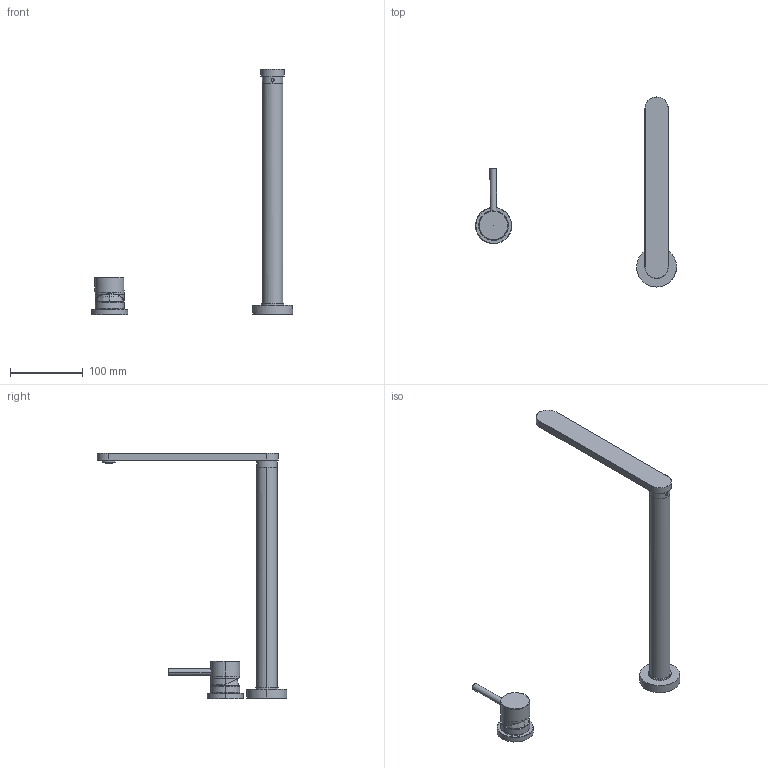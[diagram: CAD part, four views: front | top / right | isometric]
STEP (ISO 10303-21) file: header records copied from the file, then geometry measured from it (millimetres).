
FILE_DESCRIPTION(('CATIA V5 STEP Exchange'),'2;1');
FILE_NAME('\\sr02\Apell\Disegni\DISEGNI\Miscelatori\Miscelatori_FIMA\APF1260CR.stp','2016-05-25T12:17:17+00:00',('none'),('none'),'CATIA Version 5-6 Release 2014','CATIA V5 STEP AP203','none');
FILE_SCHEMA(('CONFIG_CONTROL_DESIGN'));
Length unit declared in the file: millimetre
Products named in the file (1): Miscelatore telescopico
Assembly tree (2 placements, depth 2):
  Miscelatore telescopico
    #57
    #2400
Bounding box: 277.29 x 261.5 x 339.25 mm (x, y, z)
Volume: 339855.1 mm3; surface area: 77426.8 mm2
Topology: 3 solids, 4 shells, 167 faces, 386 edges, 240 vertices
Faces by surface type: cylinder 59, plane 42, torus 36, cone 18, bspline 8, sphere 4
Entity records: 5612 total; most frequent: CARTESIAN_POINT 2013, ORIENTED_EDGE 764, DIRECTION 612, EDGE_CURVE 382, AXIS2_PLACEMENT_3D 338, VERTEX_POINT 240, EDGE_LOOP 188, CIRCLE 176
